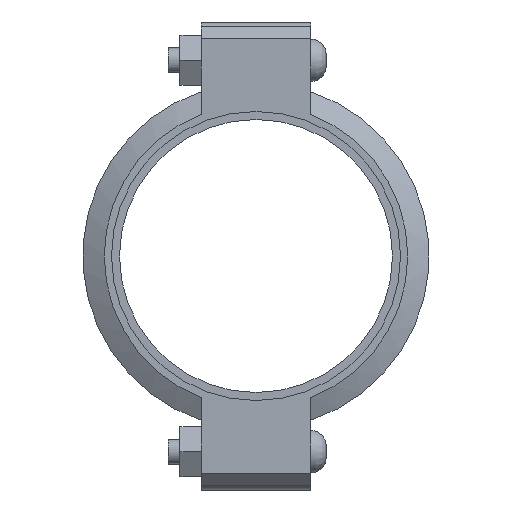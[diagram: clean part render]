
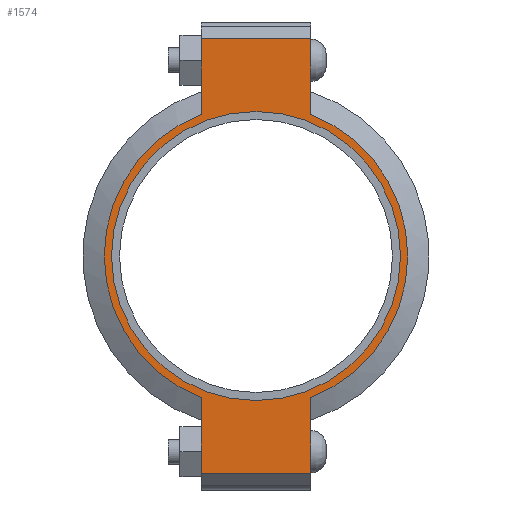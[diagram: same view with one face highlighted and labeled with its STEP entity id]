
A CAD part, left-side view. The second image highlights one B-rep face of the part: STEP entity #1574.
In plain terms, the highlighted planar face has unit normal (-1, 0, 0) as drawn and (0, 0, 1) by its records, which use the part's own axes.
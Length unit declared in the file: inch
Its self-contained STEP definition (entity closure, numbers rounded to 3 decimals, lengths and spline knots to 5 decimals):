
#198=LINE('',#2738,#291);
#206=LINE('',#2774,#299);
#213=LINE('',#2795,#306);
#222=LINE('',#2827,#315);
#223=LINE('',#2831,#316);
#224=LINE('',#2833,#317);
#291=VECTOR('',#2226,0.3937);
#299=VECTOR('',#2242,0.3937);
#306=VECTOR('',#2261,0.3937);
#315=VECTOR('',#2286,0.3937);
#316=VECTOR('',#2291,0.3937);
#317=VECTOR('',#2292,0.3937);
#373=FACE_BOUND('',#551,.T.);
#445=FACE_OUTER_BOUND('',#550,.T.);
#550=EDGE_LOOP('',(#1315,#1316,#1317,#1318,#1319,#1320,#1321,#1322));
#551=EDGE_LOOP('',(#1323));
#623=CIRCLE('',#1784,4.3125);
#649=CIRCLE('',#1843,4.53);
#650=CIRCLE('',#1844,4.53);
#715=VERTEX_POINT('',#2554);
#758=VERTEX_POINT('',#2735);
#759=VERTEX_POINT('',#2737);
#770=VERTEX_POINT('',#2769);
#771=VERTEX_POINT('',#2773);
#778=VERTEX_POINT('',#2792);
#779=VERTEX_POINT('',#2794);
#789=VERTEX_POINT('',#2830);
#790=VERTEX_POINT('',#2832);
#871=EDGE_CURVE('',#715,#715,#623,.T.);
#932=EDGE_CURVE('',#759,#758,#198,.T.);
#946=EDGE_CURVE('',#771,#770,#206,.T.);
#956=EDGE_CURVE('',#779,#778,#213,.T.);
#971=EDGE_CURVE('',#771,#758,#222,.T.);
#972=EDGE_CURVE('',#770,#779,#649,.T.);
#973=EDGE_CURVE('',#789,#778,#223,.T.);
#974=EDGE_CURVE('',#789,#790,#224,.T.);
#975=EDGE_CURVE('',#790,#759,#650,.T.);
#1315=ORIENTED_EDGE('',*,*,#971,.F.);
#1316=ORIENTED_EDGE('',*,*,#946,.T.);
#1317=ORIENTED_EDGE('',*,*,#972,.T.);
#1318=ORIENTED_EDGE('',*,*,#956,.T.);
#1319=ORIENTED_EDGE('',*,*,#973,.F.);
#1320=ORIENTED_EDGE('',*,*,#974,.T.);
#1321=ORIENTED_EDGE('',*,*,#975,.T.);
#1322=ORIENTED_EDGE('',*,*,#932,.T.);
#1323=ORIENTED_EDGE('',*,*,#871,.T.);
#1416=PLANE('',#1842);
#1574=ADVANCED_FACE('',(#445,#373),#1416,.T.);
#1784=AXIS2_PLACEMENT_3D('',#2556,#2102,#2103);
#1842=AXIS2_PLACEMENT_3D('',#2828,#2287,#2288);
#1843=AXIS2_PLACEMENT_3D('',#2829,#2289,#2290);
#1844=AXIS2_PLACEMENT_3D('',#2834,#2293,#2294);
#2102=DIRECTION('center_axis',(0.,0.,-1.));
#2103=DIRECTION('ref_axis',(-1.,0.,0.));
#2226=DIRECTION('',(-1.,0.,0.));
#2242=DIRECTION('',(1.,0.,0.));
#2261=DIRECTION('',(1.,0.,0.));
#2286=DIRECTION('',(0.,1.,0.));
#2287=DIRECTION('center_axis',(0.,0.,1.));
#2288=DIRECTION('ref_axis',(1.,0.,0.));
#2289=DIRECTION('center_axis',(0.,0.,1.));
#2290=DIRECTION('ref_axis',(-1.,0.,0.));
#2291=DIRECTION('',(0.,-1.,0.));
#2292=DIRECTION('',(-1.,0.,0.));
#2293=DIRECTION('center_axis',(0.,0.,1.));
#2294=DIRECTION('ref_axis',(-1.,0.,0.));
#2554=CARTESIAN_POINT('',(4.3125,0.,1.16));
#2556=CARTESIAN_POINT('Origin',(0.,0.,1.16));
#2735=CARTESIAN_POINT('',(-6.485,1.63,1.16));
#2737=CARTESIAN_POINT('',(-4.22658,1.63,1.16));
#2738=CARTESIAN_POINT('',(-6.985,1.63,1.16));
#2769=CARTESIAN_POINT('',(-4.22658,-1.63,1.16));
#2773=CARTESIAN_POINT('',(-6.485,-1.63,1.16));
#2774=CARTESIAN_POINT('',(6.985,-1.63,1.16));
#2792=CARTESIAN_POINT('',(6.485,-1.63,1.16));
#2794=CARTESIAN_POINT('',(4.22658,-1.63,1.16));
#2795=CARTESIAN_POINT('',(6.985,-1.63,1.16));
#2827=CARTESIAN_POINT('',(-6.485,0.815,1.16));
#2828=CARTESIAN_POINT('Origin',(0.,0.,
1.16));
#2829=CARTESIAN_POINT('Origin',(0.,0.,1.16));
#2830=CARTESIAN_POINT('',(6.485,1.63,1.16));
#2831=CARTESIAN_POINT('',(6.485,-0.815,1.16));
#2832=CARTESIAN_POINT('',(4.22658,1.63,1.16));
#2833=CARTESIAN_POINT('',(-6.985,1.63,1.16));
#2834=CARTESIAN_POINT('Origin',(0.,0.,1.16));
